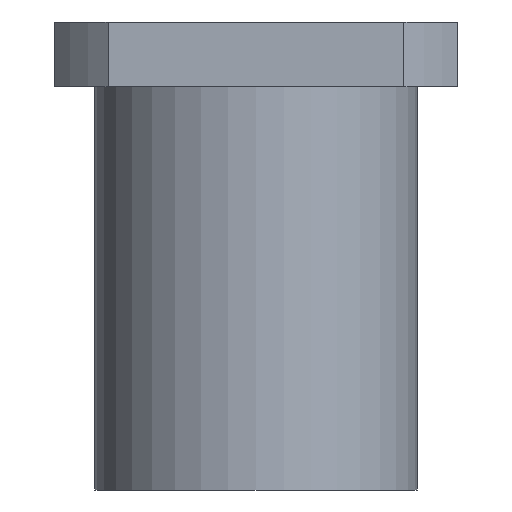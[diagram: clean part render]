
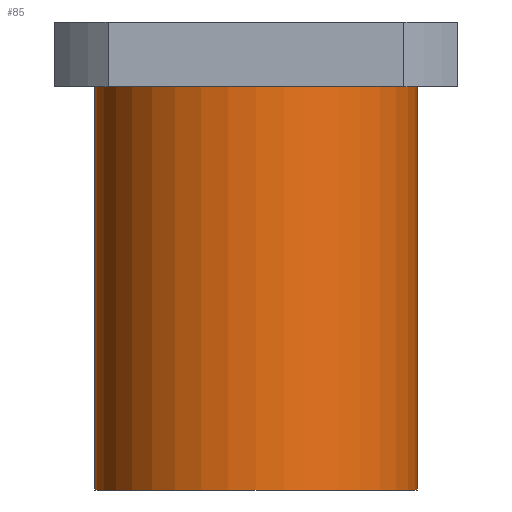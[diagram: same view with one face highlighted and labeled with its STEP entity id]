
A CAD part, front view. The second image highlights one B-rep face of the part: STEP entity #85.
In plain terms, the highlighted cylindrical face has radius 20 mm (diameter 40 mm), a partial arc.
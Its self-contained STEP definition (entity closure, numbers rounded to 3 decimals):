
#44=CARTESIAN_POINT('',(0.0,0.0,0.0));
#45=DIRECTION('',(0.0,0.0,1.0));
#46=DIRECTION('',(-1.0,0.0,0.0));
#47=AXIS2_PLACEMENT_3D('',#44,#45,#46);
#48=CYLINDRICAL_SURFACE('',#47,20.0);
#49=CARTESIAN_POINT('',(-20.0,0.,0.0));
#50=VERTEX_POINT('',#49);
#51=CARTESIAN_POINT('',(-20.0,0.,50.));
#52=VERTEX_POINT('',#51);
#53=CARTESIAN_POINT('',(-20.0,0.,0.0));
#54=DIRECTION('',(0.0,0.0,1.0));
#55=VECTOR('',#54,50.);
#56=LINE('',#53,#55);
#57=EDGE_CURVE('',#50,#52,#56,.T.);
#58=ORIENTED_EDGE('',*,*,#57,.F.);
#59=CARTESIAN_POINT('',(20.0,0.,0.0));
#60=VERTEX_POINT('',#59);
#61=CARTESIAN_POINT('',(0.0,0.0,0.0));
#62=DIRECTION('',(0.0,0.0,-1.0));
#63=DIRECTION('',(-1.0,0.0,0.0));
#64=AXIS2_PLACEMENT_3D('',#61,#62,#63);
#65=CIRCLE('',#64,20.0);
#66=EDGE_CURVE('',#60,#50,#65,.T.);
#67=ORIENTED_EDGE('',*,*,#66,.F.);
#68=CARTESIAN_POINT('',(20.0,0.,50.));
#69=VERTEX_POINT('',#68);
#70=CARTESIAN_POINT('',(20.0,0.,50.));
#71=DIRECTION('',(0.0,0.0,-1.0));
#72=VECTOR('',#71,50.);
#73=LINE('',#70,#72);
#74=EDGE_CURVE('',#69,#60,#73,.T.);
#75=ORIENTED_EDGE('',*,*,#74,.F.);
#76=CARTESIAN_POINT('',(0.0,0.0,50.));
#77=DIRECTION('',(0.0,0.0,-1.0));
#78=DIRECTION('',(-1.0,0.0,0.0));
#79=AXIS2_PLACEMENT_3D('',#76,#77,#78);
#80=CIRCLE('',#79,20.0);
#81=EDGE_CURVE('',#69,#52,#80,.T.);
#82=ORIENTED_EDGE('',*,*,#81,.T.);
#83=EDGE_LOOP('',(#58,#67,#75,#82));
#84=FACE_OUTER_BOUND('',#83,.T.);
#85=ADVANCED_FACE('',(#84),#48,.T.);
